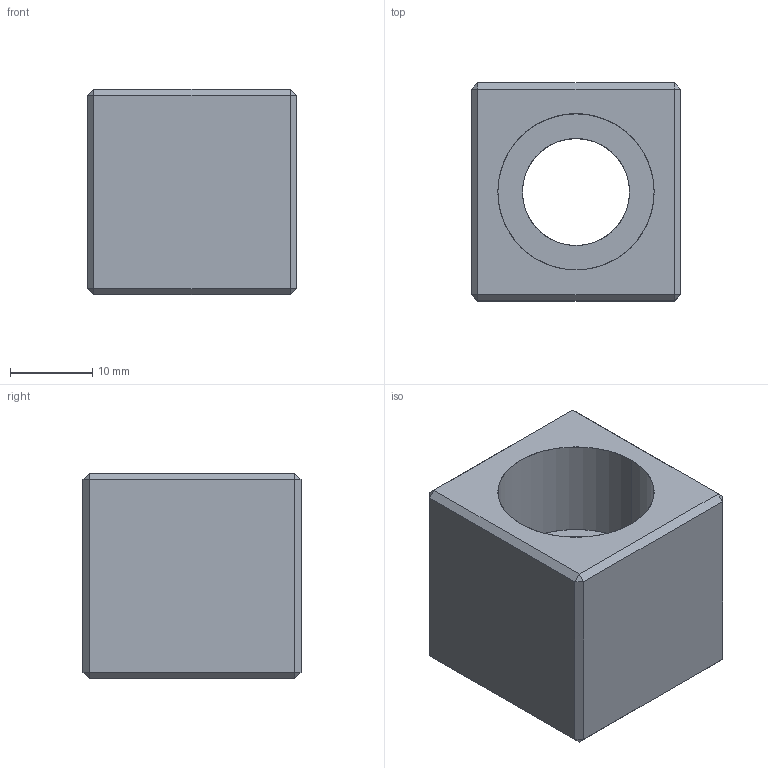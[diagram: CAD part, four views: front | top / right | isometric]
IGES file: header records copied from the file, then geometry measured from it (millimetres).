
Start section: SolidWorks IGES FILE using analytic representation for surfaces
Global section: file name: C:\WIX2\Positioning\3030\3030W050.igs; native system: SolidWorks 2003 by SolidWorks Corporation; preprocessor: Version 5.3; author: Joan; date: 030722.120006; units: millimetre
Bounding box: 25.4 x 26.5 x 25 mm (x, y, z)
Surface area: 4789.5 mm2 (no closed solid volume)
Topology: 0 solids, 0 shells, 31 faces, 240 edges, 240 vertices
Faces by surface type: bspline 27, revolution 4
